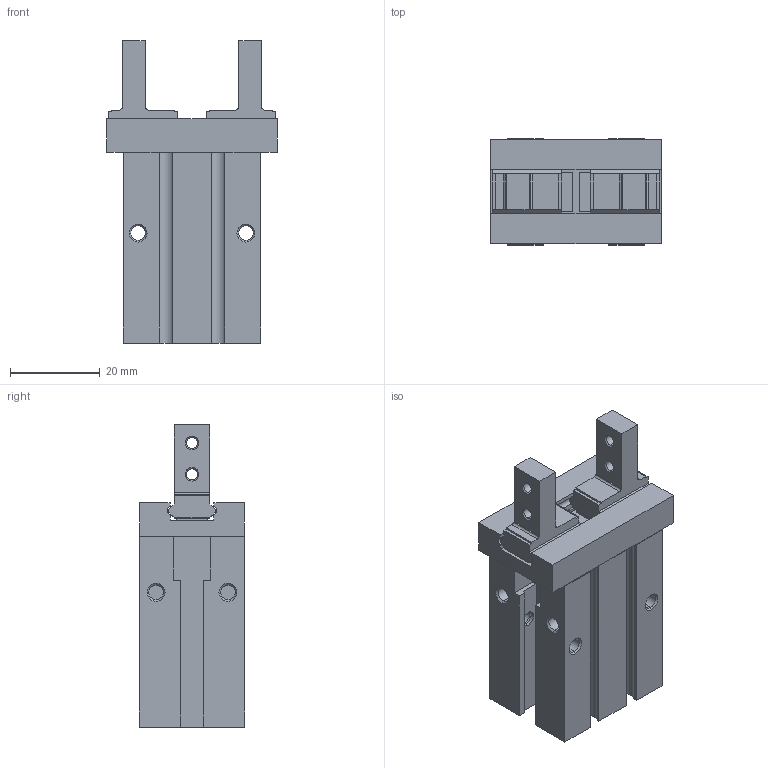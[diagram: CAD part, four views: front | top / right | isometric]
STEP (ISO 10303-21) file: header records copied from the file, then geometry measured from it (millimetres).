
FILE_DESCRIPTION (( 'STEP AP214' ), '1' );
FILE_NAME ('SHZ2_16D_20_9_0_.STEP', '2024-12-23T10:41:21', ( '' ), ( '' ), 'SwSTEP 2.0', 'SolidWorks 2023', '' );
FILE_SCHEMA (( 'AUTOMOTIVE_DESIGN' ));
Length unit declared in the file: millimetre
Products named in the file (3): SHZ2_16D_20_9_0__6; SHZ2_16D_20_9_0_; SHZ2_16D_20_9_0__3
Assembly tree (3 placements, depth 2):
  SHZ2_16D_20_9_0_
    SHZ2_16D_20_9_0__3  x2
    SHZ2_16D_20_9_0__6
Bounding box: 38 x 23.6 x 67.3 mm (x, y, z)
Volume: 31567.7 mm3; surface area: 12839.7 mm2
Topology: 3 solids, 3 shells, 252 faces, 656 edges, 420 vertices
Faces by surface type: plane 154, cylinder 54, cone 44
Entity records: 6282 total; most frequent: CARTESIAN_POINT 1096, DIRECTION 1074, ORIENTED_EDGE 1052, EDGE_CURVE 526, LINE 382, VECTOR 382, AXIS2_PLACEMENT_3D 346, VERTEX_POINT 336
